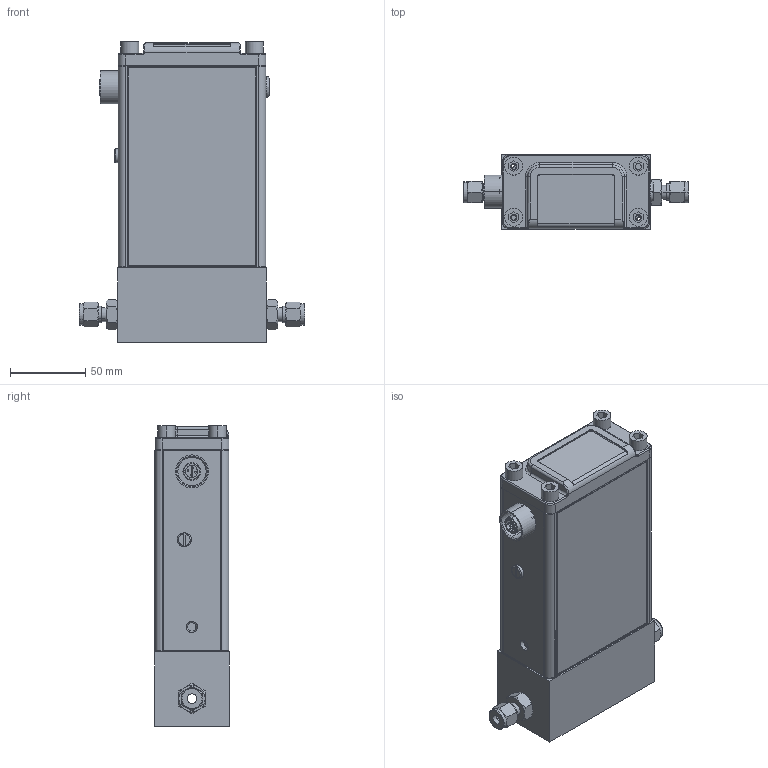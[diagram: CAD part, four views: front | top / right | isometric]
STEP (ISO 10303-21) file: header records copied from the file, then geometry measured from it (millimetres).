
FILE_DESCRIPTION (( 'STEP AP203' ), '1' );
FILE_NAME ('SLAMF60SB1xx0YxxxREVB.STEP', '2015-10-26T15:19:50', ( 'mrutkowski' ), ( 'Hewlett-Packard Company' ), 'SwSTEP 2.0', 'SolidWorks 2014', '' );
FILE_SCHEMA (( 'CONFIG_CONTROL_DESIGN' ));
Length unit declared in the file: inch
Products named in the file (1): SLAMF60SB1xx0YxxxREVB
Bounding box: 149.91 x 49.5 x 199.98 mm (x, y, z)
Surface area: 102143.4 mm2 (no closed solid volume)
Topology: 0 solids, 86 shells, 553 faces, 1811 edges, 1337 vertices
Faces by surface type: plane 292, cylinder 159, cone 72, bspline 30
Entity records: 21394 total; most frequent: CARTESIAN_POINT 5888, DIRECTION 3204, ORIENTED_EDGE 2713, EDGE_CURVE 1809, VERTEX_POINT 1337, LINE 1126, VECTOR 1126, AXIS2_PLACEMENT_3D 1039
